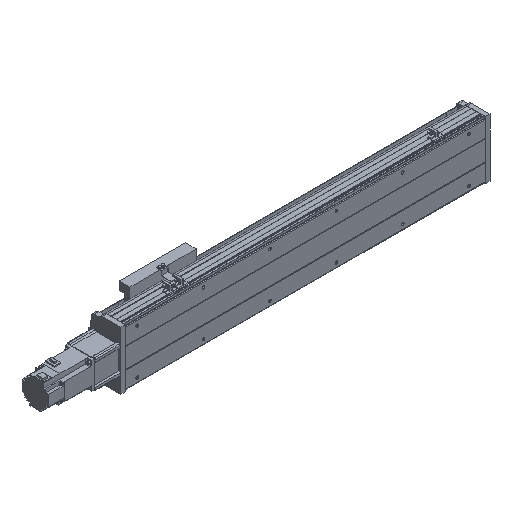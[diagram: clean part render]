
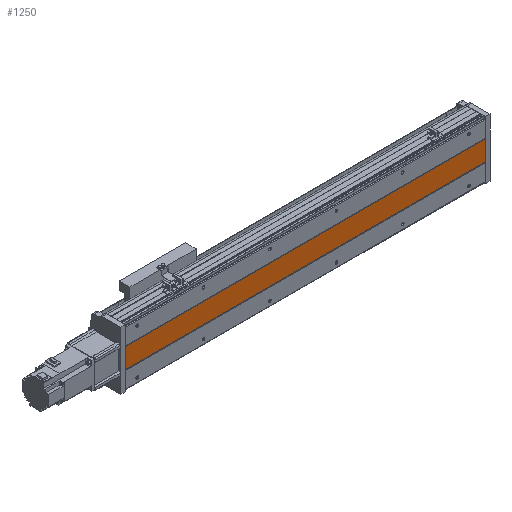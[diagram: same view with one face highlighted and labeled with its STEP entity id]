
A CAD part, isometric view. The second image highlights one B-rep face of the part: STEP entity #1250.
In plain terms, the highlighted planar face has unit normal (0, -1, 0).
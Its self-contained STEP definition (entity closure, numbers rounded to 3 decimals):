
#1250 = ADVANCED_FACE( '', ( #2721 ), #2722, .F. );
#2721 = FACE_OUTER_BOUND( '', #4462, .T. );
#2722 = PLANE( '', #4463 );
#4462 = EDGE_LOOP( '', ( #7909, #7910, #7911, #7912 ) );
#4463 = AXIS2_PLACEMENT_3D( '', #7913, #7914, #7915 );
#7909 = ORIENTED_EDGE( '', *, *, #11291, .F. );
#7910 = ORIENTED_EDGE( '', *, *, #11375, .T. );
#7911 = ORIENTED_EDGE( '', *, *, #10504, .T. );
#7912 = ORIENTED_EDGE( '', *, *, #11376, .F. );
#7913 = CARTESIAN_POINT( '', ( 1113., 1., 30. ) );
#7914 = DIRECTION( '', ( 0., 1., 0. ) );
#7915 = DIRECTION( '', ( 0., 0., 1. ) );
#10504 = EDGE_CURVE( '', #12730, #12728, #12731, .T. );
#11291 = EDGE_CURVE( '', #13921, #13923, #13924, .T. );
#11375 = EDGE_CURVE( '', #13921, #12730, #14038, .T. );
#11376 = EDGE_CURVE( '', #13923, #12728, #14039, .T. );
#12728 = VERTEX_POINT( '', #15838 );
#12730 = VERTEX_POINT( '', #15841 );
#12731 = LINE( '', #15842, #15843 );
#13921 = VERTEX_POINT( '', #17522 );
#13923 = VERTEX_POINT( '', #17525 );
#13924 = LINE( '', #17526, #17527 );
#14038 = LINE( '', #17696, #17697 );
#14039 = LINE( '', #17698, #17699 );
#15838 = CARTESIAN_POINT( '', ( 14., 1., -30. ) );
#15841 = CARTESIAN_POINT( '', ( 14., 1., 30. ) );
#15842 = CARTESIAN_POINT( '', ( 14., 1., 30. ) );
#15843 = VECTOR( '', #19044, 1000. );
#17522 = CARTESIAN_POINT( '', ( 1099., 1., 30. ) );
#17525 = CARTESIAN_POINT( '', ( 1099., 1., -30. ) );
#17526 = CARTESIAN_POINT( '', ( 1099., 1., 30. ) );
#17527 = VECTOR( '', #19871, 1000. );
#17696 = CARTESIAN_POINT( '', ( 1113., 1., 30. ) );
#17697 = VECTOR( '', #19966, 1000. );
#17698 = CARTESIAN_POINT( '', ( 1113., 1., -30. ) );
#17699 = VECTOR( '', #19967, 1000. );
#19044 = DIRECTION( '', ( 0., 0., -1. ) );
#19871 = DIRECTION( '', ( 0., 0., -1. ) );
#19966 = DIRECTION( '', ( -1., 0., 0. ) );
#19967 = DIRECTION( '', ( -1., 0., 0. ) );
